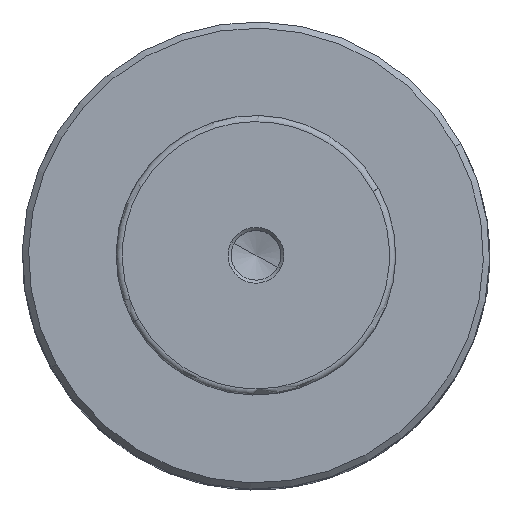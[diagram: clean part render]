
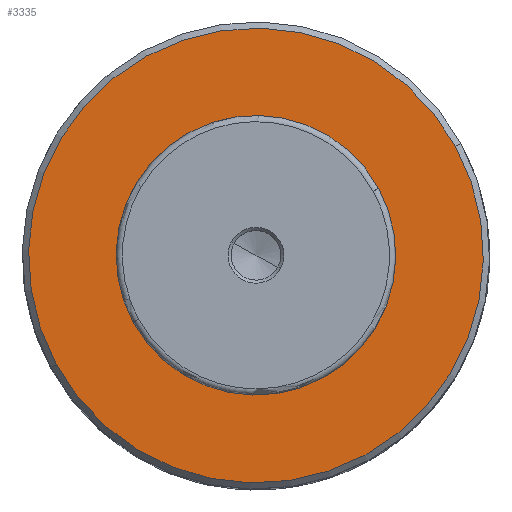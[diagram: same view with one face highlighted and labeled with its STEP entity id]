
A CAD part, top view. The second image highlights one B-rep face of the part: STEP entity #3335.
In plain terms, the highlighted planar face has unit normal (0, 0, 1).
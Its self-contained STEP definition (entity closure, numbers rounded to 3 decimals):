
#3049=CARTESIAN_POINT('Vertex',(32.12,17.547,83.)) ;
#3052=CARTESIAN_POINT('Axis2P3D Location',(0.,0.,83.)) ;
#3056=CARTESIAN_POINT('Vertex',(-32.12,-17.547,83.)) ;
#3314=CARTESIAN_POINT('Axis2P3D Location',(0.,0.,83.)) ;
#3326=CARTESIAN_POINT('Axis2P3D Location',(36.6,0.,83.)) ;
#3053=DIRECTION('Axis2P3D Direction',(0.,0.,-1.)) ;
#3315=DIRECTION('Axis2P3D Direction',(0.,0.,-1.)) ;
#3327=DIRECTION('Axis2P3D Direction',(0.,0.,1.)) ;
#3328=DIRECTION('Axis2P3D XDirection',(1.,0.,0.)) ;
#3054=AXIS2_PLACEMENT_3D('Circle Axis2P3D',#3052,#3053,$) ;
#3316=AXIS2_PLACEMENT_3D('Circle Axis2P3D',#3314,#3315,$) ;
#3329=AXIS2_PLACEMENT_3D('Plane Axis2P3D',#3326,#3327,#3328) ;
#3332=ORIENTED_EDGE('',*,*,#3058,.T.) ;
#3333=ORIENTED_EDGE('',*,*,#3318,.T.) ;
#3335=ADVANCED_FACE('',(#3334),#3330,.T.) ;
#3055=CIRCLE('generated circle',#3054,36.6) ;
#3317=CIRCLE('generated circle',#3316,36.6) ;
#3058=EDGE_CURVE('',#3057,#3050,#3055,.F.) ;
#3318=EDGE_CURVE('',#3050,#3057,#3317,.F.) ;
#3331=EDGE_LOOP('',(#3332,#3333)) ;
#3334=FACE_OUTER_BOUND('',#3331,.T.) ;
#3330=PLANE('Plane',#3329) ;
#3050=VERTEX_POINT('',#3049) ;
#3057=VERTEX_POINT('',#3056) ;
